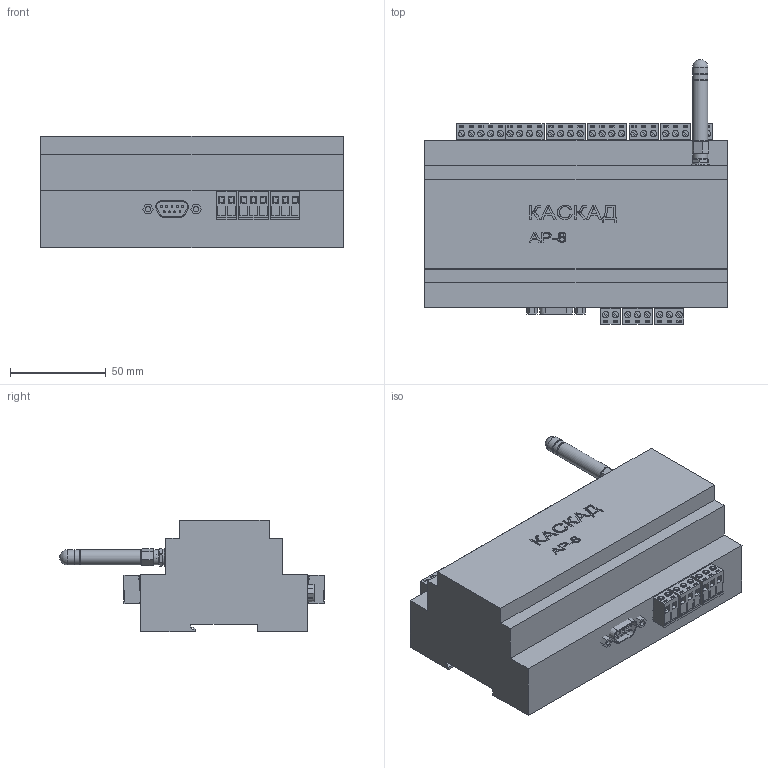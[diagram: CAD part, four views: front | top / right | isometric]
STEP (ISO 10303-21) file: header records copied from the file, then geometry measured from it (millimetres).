
FILE_DESCRIPTION(('STEP AP214'), '1');
FILE_NAME('CAD3D_model_AP8_Kaskad', '2019-03-14T12:37:06', ('UNSPECIFIED'), ('UNSPECIFIED'), 'ASCON STEP Converter 1.3', 'ASCON Math Kernel', '');
FILE_SCHEMA(('AUTOMOTIVE_DESIGN { 1 0 10303 214 3 1 1}'));
Length unit declared in the file: millimetre
Products named in the file (16): 庋攽.424318.050; 2EGDK-5.0-02P; 2EGDK-5.0-03P; 2EGDK-5.0-09P; 2EGDK-5.0-04P; SMA 譇踖樦 縺 膰豵鵨; SMA øàéáà ñòîïîðíàÿ; SMA ãðîâåðíàÿ øàéáà; SMA ãàéêà; DRB-9MA; 扻豵鵨; Àíòåííà GSM/433ÌÃö
Assembly tree (20 placements, depth 3):
  庋攽.424318.050
    2EGDK-5.0-02P  x2
    2EGDK-5.0-03P  x4
    2EGDK-5.0-09P
      (unnamed)
      (unnamed)
    2EGDK-5.0-04P  x2
    SMA 譇踖樦 縺 膰豵鵨
    SMA øàéáà ñòîïîðíàÿ
    SMA ãðîâåðíàÿ øàéáà
    SMA ãàéêà
    DRB-9MA
    扻豵鵨
    Àíòåííà GSM/433ÌÃö
      (unnamed)
      (unnamed)
Bounding box: 158 x 138.38 x 58.51 mm (x, y, z)
Volume: 681230.2 mm3; surface area: 82886.7 mm2
Topology: 19 solids, 19 shells, 3426 faces, 8943 edges, 5831 vertices
Faces by surface type: plane 2485, cylinder 827, bspline 37, torus 34, cone 24, sphere 19
Full cylindrical faces by diameter (mm): 1 x20, 1.1 x2, 1.2 x33, 1.5 x9, 1.72 x1, 2.4 x33, 2.5 x1, 2.8 x6, 3.32 x33, 4.5 x2, 5.5 x1, 5.6 x1, 6.37 x1, 6.5 x1, 7.5 x3, 7.8 x1, 8 x3, 11 x1
Entity records: 93581 total; most frequent: CARTESIAN_POINT 21458, ORIENTED_EDGE 11078, DIRECTION 10977, EDGE_CURVE 5539, LINE 4005, VECTOR 4005, VERTEX_POINT 3718, AXIS2_PLACEMENT_3D 3486
